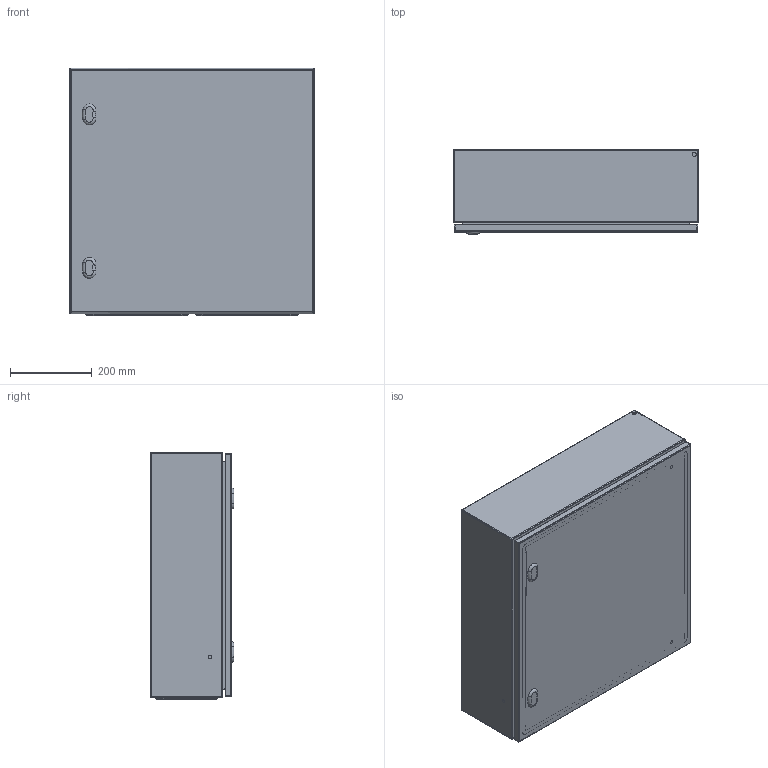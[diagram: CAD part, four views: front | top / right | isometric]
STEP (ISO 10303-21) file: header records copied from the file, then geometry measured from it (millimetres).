
FILE_DESCRIPTION(/* description */ ('STEP AP214'),/* implementation_level */ '2;1');
FILE_NAME(/* name */ 'EC060620-LOD400',/* time_stamp */ '2025-07-31T14:42:33+02:00',/* author */ ('License CC BY-ND 4.0'),/* organization */ ('CADENAS'),/* preprocessor_version */ 'ST-DEVELOPER v19.3',/* originating_system */ 'PARTsolutions',/* authorisation */ ' ');
FILE_SCHEMA (('AUTOMOTIVE_DESIGN {1 0 10303 214 3 1 1}'));
Length unit declared in the file: millimetre
Products named in the file (5): EC060620-LOD400; EC060620-LOD400_cabinet; EC060620-LOD400_door; EC060620-LOD400_bottom_plate; EC060620-LOD400_inner_plate
Assembly tree (5 placements, depth 2):
  EC060620-LOD400
    EC060620-LOD400_cabinet
    EC060620-LOD400_door
    EC060620-LOD400_bottom_plate  x2
    EC060620-LOD400_inner_plate
Bounding box: 600 x 205 x 604 mm (x, y, z)
Volume: 2753118.7 mm3; surface area: 3274899.5 mm2
Topology: 5 solids, 5 shells, 670 faces, 1584 edges, 1018 vertices
Faces by surface type: cylinder 268, plane 244, torus 80, cone 78
Full cylindrical faces by diameter (mm): 1 x64, 4.5 x54, 5 x4, 5.5 x4, 6 x4, 7 x4, 8 x12, 10 x10, 14 x4
Entity records: 14263 total; most frequent: DIRECTION 2608, CARTESIAN_POINT 2296, ORIENTED_EDGE 2044, AXIS2_PLACEMENT_3D 1074, EDGE_CURVE 1022, EDGE_LOOP 916, FACE_BOUND 916, VERTEX_POINT 762
